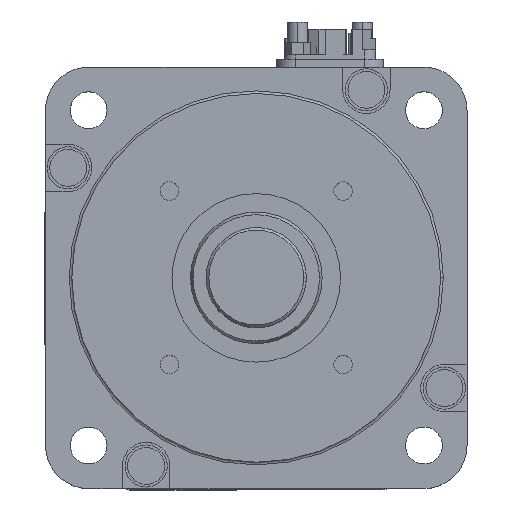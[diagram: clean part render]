
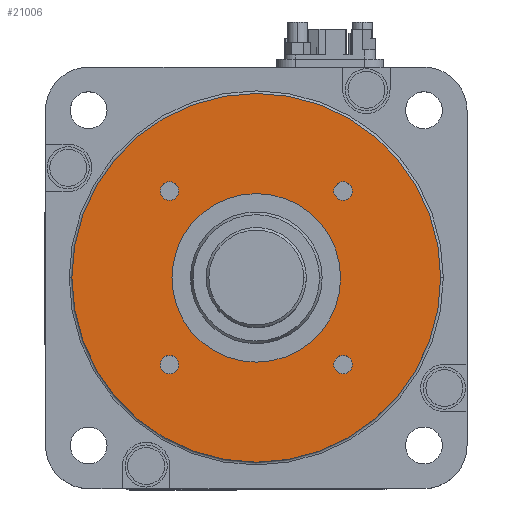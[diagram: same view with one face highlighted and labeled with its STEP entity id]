
A CAD part, top view. The second image highlights one B-rep face of the part: STEP entity #21006.
In plain terms, the highlighted planar face has unit normal (0, 0, 1).
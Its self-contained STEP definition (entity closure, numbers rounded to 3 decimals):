
#333 = AXIS2_PLACEMENT_3D ( 'NONE', #21884, #12254, #8573 ) ;
#460 = PLANE ( 'NONE',  #18869 ) ;
#487 = CIRCLE ( 'NONE', #8928, 16. ) ;
#712 = FACE_BOUND ( 'NONE', #2551, .T. ) ;
#1081 = CARTESIAN_POINT ( 'NONE',  ( -16.476, -16.476, 3. ) ) ;
#1103 = CARTESIAN_POINT ( 'NONE',  ( -14.726, -16.476, 3. ) ) ;
#1125 = ORIENTED_EDGE ( 'NONE', *, *, #11434, .F. ) ;
#1183 = VERTEX_POINT ( 'NONE', #23671 ) ;
#1261 = AXIS2_PLACEMENT_3D ( 'NONE', #20200, #5211, #10896 ) ;
#1263 = FACE_BOUND ( 'NONE', #10852, .T. ) ;
#1449 = EDGE_CURVE ( 'NONE', #22953, #23395, #15481, .T. ) ;
#1455 = VERTEX_POINT ( 'NONE', #9195 ) ;
#1578 = FACE_OUTER_BOUND ( 'NONE', #7799, .T. ) ;
#1960 = DIRECTION ( 'NONE',  ( 1., 0., 0. ) ) ;
#2464 = VERTEX_POINT ( 'NONE', #8476 ) ;
#2551 = EDGE_LOOP ( 'NONE', ( #22112, #1125 ) ) ;
#2687 = EDGE_CURVE ( 'NONE', #2464, #1183, #13295, .T. ) ;
#2917 = EDGE_CURVE ( 'NONE', #16026, #6666, #12691, .T. ) ;
#3146 = CARTESIAN_POINT ( 'NONE',  ( -35., 0., 3. ) ) ;
#3435 = AXIS2_PLACEMENT_3D ( 'NONE', #10986, #20535, #22501 ) ;
#3654 = FACE_BOUND ( 'NONE', #15887, .T. ) ;
#3804 = CIRCLE ( 'NONE', #7151, 1.75 ) ;
#3927 = DIRECTION ( 'NONE',  ( 0., 0., 1. ) ) ;
#3964 = AXIS2_PLACEMENT_3D ( 'NONE', #7889, #15254, #22524 ) ;
#4528 = ORIENTED_EDGE ( 'NONE', *, *, #18456, .F. ) ;
#5211 = DIRECTION ( 'NONE',  ( 0., 0., 1. ) ) ;
#5330 = CIRCLE ( 'NONE', #21017, 1.75 ) ;
#5650 = DIRECTION ( 'NONE',  ( 1., 0., 0. ) ) ;
#5885 = AXIS2_PLACEMENT_3D ( 'NONE', #18738, #18829, #5650 ) ;
#6211 = AXIS2_PLACEMENT_3D ( 'NONE', #1081, #21608, #16078 ) ;
#6355 = FACE_BOUND ( 'NONE', #22659, .T. ) ;
#6482 = DIRECTION ( 'NONE',  ( 0., 0., 1. ) ) ;
#6491 = VERTEX_POINT ( 'NONE', #15940 ) ;
#6524 = CARTESIAN_POINT ( 'NONE',  ( 18.226, 16.476, 3. ) ) ;
#6567 = CARTESIAN_POINT ( 'NONE',  ( 16.476, 16.476, 3. ) ) ;
#6666 = VERTEX_POINT ( 'NONE', #13764 ) ;
#7151 = AXIS2_PLACEMENT_3D ( 'NONE', #20603, #24148, #13078 ) ;
#7188 = ORIENTED_EDGE ( 'NONE', *, *, #18318, .F. ) ;
#7799 = EDGE_LOOP ( 'NONE', ( #14216, #12499 ) ) ;
#7825 = ORIENTED_EDGE ( 'NONE', *, *, #2687, .F. ) ;
#7889 = CARTESIAN_POINT ( 'NONE',  ( 16.476, -16.476, 3. ) ) ;
#8052 = CIRCLE ( 'NONE', #3964, 1.75 ) ;
#8076 = VERTEX_POINT ( 'NONE', #16601 ) ;
#8102 = EDGE_CURVE ( 'NONE', #6491, #12385, #487, .T. ) ;
#8228 = DIRECTION ( 'NONE',  ( 1., 0., 0. ) ) ;
#8461 = ORIENTED_EDGE ( 'NONE', *, *, #21572, .F. ) ;
#8476 = CARTESIAN_POINT ( 'NONE',  ( -14.726, 16.476, 3. ) ) ;
#8573 = DIRECTION ( 'NONE',  ( 1., 0., 0. ) ) ;
#8928 = AXIS2_PLACEMENT_3D ( 'NONE', #13427, #11481, #22288 ) ;
#8990 = ORIENTED_EDGE ( 'NONE', *, *, #10502, .F. ) ;
#9195 = CARTESIAN_POINT ( 'NONE',  ( -18.226, -16.476, 3. ) ) ;
#9503 = DIRECTION ( 'NONE',  ( 0., 0., 1. ) ) ;
#9731 = ORIENTED_EDGE ( 'NONE', *, *, #2917, .F. ) ;
#9872 = AXIS2_PLACEMENT_3D ( 'NONE', #21311, #23034, #8228 ) ;
#10129 = EDGE_CURVE ( 'NONE', #1183, #2464, #3804, .T. ) ;
#10502 = EDGE_CURVE ( 'NONE', #12385, #6491, #20858, .T. ) ;
#10852 = EDGE_LOOP ( 'NONE', ( #15252, #8990 ) ) ;
#10896 = DIRECTION ( 'NONE',  ( 1., 0., 0. ) ) ;
#10986 = CARTESIAN_POINT ( 'NONE',  ( 0., 0., 3. ) ) ;
#11152 = DIRECTION ( 'NONE',  ( 0., 0., 1. ) ) ;
#11434 = EDGE_CURVE ( 'NONE', #1455, #24010, #21340, .T. ) ;
#11463 = ORIENTED_EDGE ( 'NONE', *, *, #10129, .F. ) ;
#11481 = DIRECTION ( 'NONE',  ( 0., 0., 1. ) ) ;
#12065 = DIRECTION ( 'NONE',  ( 1., 0., 0. ) ) ;
#12254 = DIRECTION ( 'NONE',  ( 0., 0., 1. ) ) ;
#12385 = VERTEX_POINT ( 'NONE', #15749 ) ;
#12499 = ORIENTED_EDGE ( 'NONE', *, *, #12675, .T. ) ;
#12675 = EDGE_CURVE ( 'NONE', #23395, #22953, #17379, .T. ) ;
#12691 = CIRCLE ( 'NONE', #14228, 1.75 ) ;
#13078 = DIRECTION ( 'NONE',  ( 1., 0., 0. ) ) ;
#13295 = CIRCLE ( 'NONE', #5885, 1.75 ) ;
#13427 = CARTESIAN_POINT ( 'NONE',  ( 0., 0., 3. ) ) ;
#13633 = CARTESIAN_POINT ( 'NONE',  ( 0., 0., 3. ) ) ;
#13764 = CARTESIAN_POINT ( 'NONE',  ( 14.726, 16.476, 3. ) ) ;
#14216 = ORIENTED_EDGE ( 'NONE', *, *, #1449, .T. ) ;
#14228 = AXIS2_PLACEMENT_3D ( 'NONE', #6567, #6482, #12065 ) ;
#14279 = CARTESIAN_POINT ( 'NONE',  ( 14.726, -16.476, 3. ) ) ;
#15252 = ORIENTED_EDGE ( 'NONE', *, *, #8102, .F. ) ;
#15254 = DIRECTION ( 'NONE',  ( 0., 0., 1. ) ) ;
#15481 = CIRCLE ( 'NONE', #18121, 35. ) ;
#15749 = CARTESIAN_POINT ( 'NONE',  ( -16., 0., 3. ) ) ;
#15887 = EDGE_LOOP ( 'NONE', ( #7825, #11463 ) ) ;
#15940 = CARTESIAN_POINT ( 'NONE',  ( 16., 0., 3. ) ) ;
#15961 = VERTEX_POINT ( 'NONE', #14279 ) ;
#16014 = FACE_BOUND ( 'NONE', #23255, .T. ) ;
#16026 = VERTEX_POINT ( 'NONE', #6524 ) ;
#16078 = DIRECTION ( 'NONE',  ( 1., 0., 0. ) ) ;
#16601 = CARTESIAN_POINT ( 'NONE',  ( 18.226, -16.476, 3. ) ) ;
#17379 = CIRCLE ( 'NONE', #3435, 35. ) ;
#18121 = AXIS2_PLACEMENT_3D ( 'NONE', #20541, #11152, #18639 ) ;
#18318 = EDGE_CURVE ( 'NONE', #6666, #16026, #23617, .T. ) ;
#18456 = EDGE_CURVE ( 'NONE', #8076, #15961, #5330, .T. ) ;
#18639 = DIRECTION ( 'NONE',  ( 1., 0., 0. ) ) ;
#18738 = CARTESIAN_POINT ( 'NONE',  ( -16.476, 16.476, 3. ) ) ;
#18829 = DIRECTION ( 'NONE',  ( 0., 0., 1. ) ) ;
#18869 = AXIS2_PLACEMENT_3D ( 'NONE', #13633, #3927, #18922 ) ;
#18922 = DIRECTION ( 'NONE',  ( 1., 0., 0. ) ) ;
#20047 = EDGE_CURVE ( 'NONE', #24010, #1455, #24106, .T. ) ;
#20200 = CARTESIAN_POINT ( 'NONE',  ( 16.476, 16.476, 3. ) ) ;
#20535 = DIRECTION ( 'NONE',  ( 0., 0., 1. ) ) ;
#20541 = CARTESIAN_POINT ( 'NONE',  ( 0., 0., 3. ) ) ;
#20603 = CARTESIAN_POINT ( 'NONE',  ( -16.476, 16.476, 3. ) ) ;
#20764 = CARTESIAN_POINT ( 'NONE',  ( 16.476, -16.476, 3. ) ) ;
#20858 = CIRCLE ( 'NONE', #333, 16. ) ;
#21006 = ADVANCED_FACE ( 'NONE', ( #6355, #712, #3654, #16014, #1263, #1578 ), #460, .T. ) ;
#21017 = AXIS2_PLACEMENT_3D ( 'NONE', #20764, #9503, #1960 ) ;
#21311 = CARTESIAN_POINT ( 'NONE',  ( -16.476, -16.476, 3. ) ) ;
#21340 = CIRCLE ( 'NONE', #6211, 1.75 ) ;
#21416 = CARTESIAN_POINT ( 'NONE',  ( 35., 0., 3. ) ) ;
#21572 = EDGE_CURVE ( 'NONE', #15961, #8076, #8052, .T. ) ;
#21608 = DIRECTION ( 'NONE',  ( 0., 0., 1. ) ) ;
#21884 = CARTESIAN_POINT ( 'NONE',  ( 0., 0., 3. ) ) ;
#22112 = ORIENTED_EDGE ( 'NONE', *, *, #20047, .F. ) ;
#22288 = DIRECTION ( 'NONE',  ( 1., 0., 0. ) ) ;
#22501 = DIRECTION ( 'NONE',  ( 1., 0., 0. ) ) ;
#22524 = DIRECTION ( 'NONE',  ( 1., 0., 0. ) ) ;
#22659 = EDGE_LOOP ( 'NONE', ( #4528, #8461 ) ) ;
#22953 = VERTEX_POINT ( 'NONE', #3146 ) ;
#23034 = DIRECTION ( 'NONE',  ( 0., 0., 1. ) ) ;
#23255 = EDGE_LOOP ( 'NONE', ( #9731, #7188 ) ) ;
#23395 = VERTEX_POINT ( 'NONE', #21416 ) ;
#23617 = CIRCLE ( 'NONE', #1261, 1.75 ) ;
#23671 = CARTESIAN_POINT ( 'NONE',  ( -18.226, 16.476, 3. ) ) ;
#24010 = VERTEX_POINT ( 'NONE', #1103 ) ;
#24106 = CIRCLE ( 'NONE', #9872, 1.75 ) ;
#24148 = DIRECTION ( 'NONE',  ( 0., 0., 1. ) ) ;
